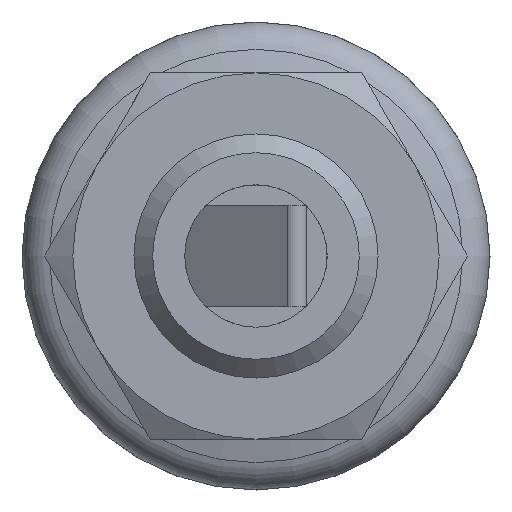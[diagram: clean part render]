
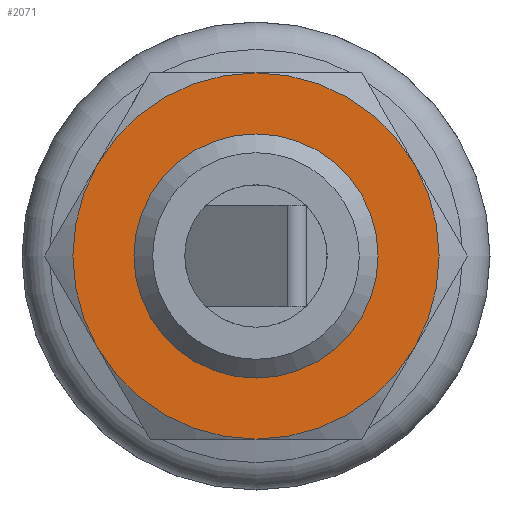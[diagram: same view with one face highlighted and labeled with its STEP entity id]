
A CAD part, front view. The second image highlights one B-rep face of the part: STEP entity #2071.
In plain terms, the highlighted planar face has unit normal (0, -1, 0).
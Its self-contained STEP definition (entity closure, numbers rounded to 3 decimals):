
#218=CIRCLE('',#2253,9.);
#219=CIRCLE('',#2255,9.);
#220=CIRCLE('',#2257,9.);
#221=CIRCLE('',#2259,9.);
#222=CIRCLE('',#2261,9.);
#225=CIRCLE('',#2267,9.);
#226=CIRCLE('',#2269,5.053);
#564=ORIENTED_EDGE('',*,*,#793,.F.);
#565=ORIENTED_EDGE('',*,*,#777,.T.);
#566=ORIENTED_EDGE('',*,*,#780,.T.);
#567=ORIENTED_EDGE('',*,*,#783,.T.);
#568=ORIENTED_EDGE('',*,*,#790,.T.);
#569=ORIENTED_EDGE('',*,*,#773,.T.);
#570=ORIENTED_EDGE('',*,*,#774,.T.);
#773=EDGE_CURVE('',#916,#918,#218,.T.);
#774=EDGE_CURVE('',#918,#919,#219,.T.);
#777=EDGE_CURVE('',#919,#921,#220,.T.);
#780=EDGE_CURVE('',#921,#923,#221,.T.);
#783=EDGE_CURVE('',#923,#925,#222,.T.);
#790=EDGE_CURVE('',#925,#916,#225,.T.);
#793=EDGE_CURVE('',#930,#930,#226,.T.);
#916=VERTEX_POINT('',#3224);
#918=VERTEX_POINT('',#3230);
#919=VERTEX_POINT('',#3234);
#921=VERTEX_POINT('',#3246);
#923=VERTEX_POINT('',#3258);
#925=VERTEX_POINT('',#3270);
#930=VERTEX_POINT('',#3307);
#1179=EDGE_LOOP('',(#564));
#1180=EDGE_LOOP('',(#565,#566,#567,#568,#569,#570));
#1325=FACE_BOUND('',#1179,.T.);
#1326=FACE_BOUND('',#1180,.T.);
#1376=PLANE('',#2268);
#2071=ADVANCED_FACE('',(#1325,#1326),#1376,.F.);
#2253=AXIS2_PLACEMENT_3D('',#3231,#2648,#2649);
#2255=AXIS2_PLACEMENT_3D('',#3233,#2652,#2653);
#2257=AXIS2_PLACEMENT_3D('',#3245,#2656,#2657);
#2259=AXIS2_PLACEMENT_3D('',#3257,#2660,#2661);
#2261=AXIS2_PLACEMENT_3D('',#3269,#2664,#2665);
#2267=AXIS2_PLACEMENT_3D('',#3295,#2676,#2677);
#2268=AXIS2_PLACEMENT_3D('',#3305,#2678,#2679);
#2269=AXIS2_PLACEMENT_3D('',#3306,#2680,#2681);
#2648=DIRECTION('',(0.,-1.,0.));
#2649=DIRECTION('',(0.,0.,-1.));
#2652=DIRECTION('',(0.,-1.,0.));
#2653=DIRECTION('',(0.,0.,-1.));
#2656=DIRECTION('',(0.,-1.,0.));
#2657=DIRECTION('',(0.,0.,-1.));
#2660=DIRECTION('',(0.,-1.,0.));
#2661=DIRECTION('',(0.,0.,-1.));
#2664=DIRECTION('',(0.,-1.,0.));
#2665=DIRECTION('',(0.,0.,-1.));
#2676=DIRECTION('',(0.,-1.,0.));
#2677=DIRECTION('',(0.,0.,-1.));
#2678=DIRECTION('',(0.,1.,0.));
#2679=DIRECTION('',(0.,0.,1.));
#2680=DIRECTION('',(0.,-1.,0.));
#2681=DIRECTION('',(0.,0.,-1.));
#3224=CARTESIAN_POINT('',(-7.794,0.,4.5));
#3230=CARTESIAN_POINT('',(-7.794,0.,-4.5));
#3231=CARTESIAN_POINT('',(0.,0.,0.));
#3233=CARTESIAN_POINT('',(0.,0.,0.));
#3234=CARTESIAN_POINT('',(0.,0.,-9.));
#3245=CARTESIAN_POINT('',(0.,0.,0.));
#3246=CARTESIAN_POINT('',(7.794,0.,-4.5));
#3257=CARTESIAN_POINT('',(0.,0.,0.));
#3258=CARTESIAN_POINT('',(7.794,0.,4.5));
#3269=CARTESIAN_POINT('',(0.,0.,0.));
#3270=CARTESIAN_POINT('',(0.,0.,9.));
#3295=CARTESIAN_POINT('',(0.,0.,0.));
#3305=CARTESIAN_POINT('',(9.,0.,0.));
#3306=CARTESIAN_POINT('',(0.,0.,0.));
#3307=CARTESIAN_POINT('',(0.,0.,-5.053));
